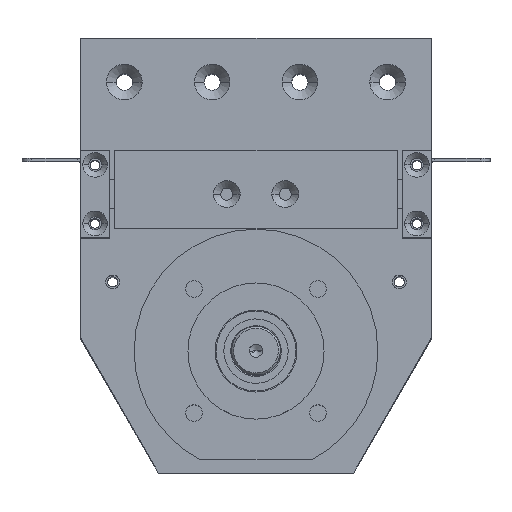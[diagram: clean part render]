
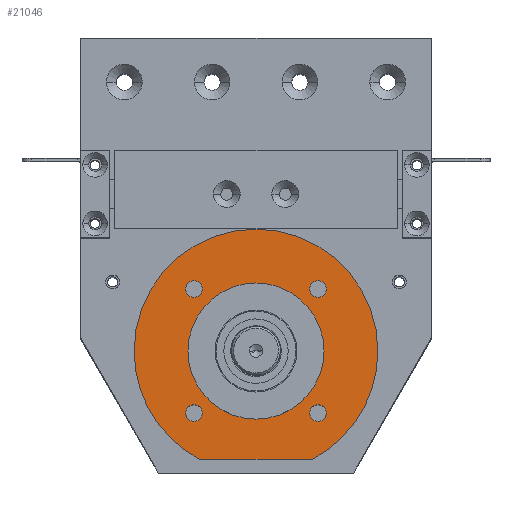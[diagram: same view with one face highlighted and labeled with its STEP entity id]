
A CAD part, top view. The second image highlights one B-rep face of the part: STEP entity #21046.
In plain terms, the highlighted planar face has unit normal (0, 0, 1) as drawn and (-1, 0, 0) by its records, which use the part's own axes.
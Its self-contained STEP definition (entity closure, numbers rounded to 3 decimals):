
#1391 = CIRCLE ( 'NONE', #21744, 4.25 ) ;
#1392 = CIRCLE ( 'NONE', #21743, 4.25 ) ;
#1399 = CIRCLE ( 'NONE', #21739, 62.5 ) ;
#1400 = CIRCLE ( 'NONE', #21738, 62.5 ) ;
#1406 = CIRCLE ( 'NONE', #21735, 34.9 ) ;
#1455 = CIRCLE ( 'NONE', #21725, 4.25 ) ;
#1467 = CIRCLE ( 'NONE', #21722, 4.25 ) ;
#1653 = CIRCLE ( 'NONE', #21665, 34.9 ) ;
#1654 = CIRCLE ( 'NONE', #21664, 4.25 ) ;
#1656 = CIRCLE ( 'NONE', #21662, 4.25 ) ;
#1657 = LINE ( 'NONE', #14469, #1661 ) ;
#1659 = CIRCLE ( 'NONE', #21661, 4.25 ) ;
#1661 = VECTOR ( 'NONE', #14470, 1000. ) ;
#1662 = CIRCLE ( 'NONE', #21660, 4.25 ) ;
#1668 = CIRCLE ( 'NONE', #21656, 62.5 ) ;
#2555 = FACE_BOUND ( 'NONE', #16467, .T. ) ;
#2565 = FACE_BOUND ( 'NONE', #16470, .T. ) ;
#2573 = FACE_BOUND ( 'NONE', #16472, .T. ) ;
#2575 = FACE_BOUND ( 'NONE', #16471, .T. ) ;
#2578 = FACE_BOUND ( 'NONE', #16468, .T. ) ;
#2580 = FACE_OUTER_BOUND ( 'NONE', #16466, .T. ) ;
#4502 = VERTEX_POINT ( 'NONE', #8877 ) ;
#4517 = VERTEX_POINT ( 'NONE', #8890 ) ;
#4541 = VERTEX_POINT ( 'NONE', #8902 ) ;
#4545 = VERTEX_POINT ( 'NONE', #8904 ) ;
#4607 = VERTEX_POINT ( 'NONE', #8936 ) ;
#4619 = VERTEX_POINT ( 'NONE', #8942 ) ;
#4650 = VERTEX_POINT ( 'NONE', #8956 ) ;
#4673 = VERTEX_POINT ( 'NONE', #8968 ) ;
#4701 = VERTEX_POINT ( 'NONE', #17154 ) ;
#4719 = VERTEX_POINT ( 'NONE', #17163 ) ;
#4751 = VERTEX_POINT ( 'NONE', #17179 ) ;
#8877 = CARTESIAN_POINT ( 'NONE',  ( 2., 31.82, -27.57 ) ) ;
#8890 = CARTESIAN_POINT ( 'NONE',  ( 2., 0., -34.9 ) ) ;
#8902 = CARTESIAN_POINT ( 'NONE',  ( 2., -55.5, 28.74 ) ) ;
#8904 = CARTESIAN_POINT ( 'NONE',  ( 2., 0., -62.5 ) ) ;
#8936 = CARTESIAN_POINT ( 'NONE',  ( 2., 0., 34.9 ) ) ;
#8942 = CARTESIAN_POINT ( 'NONE',  ( 2., -31.82, 27.57 ) ) ;
#8956 = CARTESIAN_POINT ( 'NONE',  ( 2., 0., 62.5 ) ) ;
#8968 = CARTESIAN_POINT ( 'NONE',  ( 2., 31.82, -36.07 ) ) ;
#11000 = VERTEX_POINT ( 'NONE', #17268 ) ;
#11002 = VERTEX_POINT ( 'NONE', #17270 ) ;
#11009 = VERTEX_POINT ( 'NONE', #17277 ) ;
#12355 = DIRECTION ( 'NONE',  ( 1., 0., 0. ) ) ;
#12357 = PLANE ( 'NONE',  #20696 ) ;
#12359 = CARTESIAN_POINT ( 'NONE',  ( 2., 62.5, 0. ) ) ;
#12361 = DIRECTION ( 'NONE',  ( 0., 0., -1. ) ) ;
#13546 = CARTESIAN_POINT ( 'NONE',  ( 2., 0., 0. ) ) ;
#13547 = DIRECTION ( 'NONE',  ( -1., 0., 0. ) ) ;
#13548 = DIRECTION ( 'NONE',  ( 0., 0., 1. ) ) ;
#14098 = CARTESIAN_POINT ( 'NONE',  ( 2., 31.82, -31.82 ) ) ;
#14099 = DIRECTION ( 'NONE',  ( 1., 0., 0. ) ) ;
#14100 = DIRECTION ( 'NONE',  ( 0., 0., -1. ) ) ;
#14102 = CARTESIAN_POINT ( 'NONE',  ( 2., 31.82, 31.82 ) ) ;
#14103 = DIRECTION ( 'NONE',  ( 1., 0., 0. ) ) ;
#14104 = DIRECTION ( 'NONE',  ( 0., 0., -1. ) ) ;
#14115 = CARTESIAN_POINT ( 'NONE',  ( 2., 0., 0. ) ) ;
#14116 = DIRECTION ( 'NONE',  ( -1., 0., 0. ) ) ;
#14117 = DIRECTION ( 'NONE',  ( 0., 0., 1. ) ) ;
#14119 = CARTESIAN_POINT ( 'NONE',  ( 2., 0., 0. ) ) ;
#14120 = DIRECTION ( 'NONE',  ( -1., 0., 0. ) ) ;
#14121 = DIRECTION ( 'NONE',  ( 0., 0., 1. ) ) ;
#14134 = CARTESIAN_POINT ( 'NONE',  ( 2., 0., 0. ) ) ;
#14135 = DIRECTION ( 'NONE',  ( -1., 0., 0. ) ) ;
#14136 = DIRECTION ( 'NONE',  ( 0., 0., 1. ) ) ;
#14200 = CARTESIAN_POINT ( 'NONE',  ( 2., -31.82, 31.82 ) ) ;
#14201 = DIRECTION ( 'NONE',  ( 1., 0., 0. ) ) ;
#14202 = DIRECTION ( 'NONE',  ( 0., 0., -1. ) ) ;
#14215 = CARTESIAN_POINT ( 'NONE',  ( 2., -31.82, -31.82 ) ) ;
#14216 = DIRECTION ( 'NONE',  ( 1., 0., 0. ) ) ;
#14217 = DIRECTION ( 'NONE',  ( 0., 0., -1. ) ) ;
#14466 = CARTESIAN_POINT ( 'NONE',  ( 2., 0., 0. ) ) ;
#14467 = DIRECTION ( 'NONE',  ( -1., 0., 0. ) ) ;
#14468 = DIRECTION ( 'NONE',  ( 0., 0., 1. ) ) ;
#14469 = CARTESIAN_POINT ( 'NONE',  ( 2., -55.5, 28.74 ) ) ;
#14470 = DIRECTION ( 'NONE',  ( 0., 0., -1. ) ) ;
#14471 = CARTESIAN_POINT ( 'NONE',  ( 2., 31.82, 31.82 ) ) ;
#14472 = DIRECTION ( 'NONE',  ( 1., 0., 0. ) ) ;
#14473 = DIRECTION ( 'NONE',  ( 0., 0., -1. ) ) ;
#14474 = CARTESIAN_POINT ( 'NONE',  ( 2., -31.82, -31.82 ) ) ;
#14475 = DIRECTION ( 'NONE',  ( 1., 0., 0. ) ) ;
#14476 = DIRECTION ( 'NONE',  ( 0., 0., -1. ) ) ;
#14479 = CARTESIAN_POINT ( 'NONE',  ( 2., 31.82, -31.82 ) ) ;
#14480 = DIRECTION ( 'NONE',  ( 1., 0., 0. ) ) ;
#14481 = DIRECTION ( 'NONE',  ( 0., 0., -1. ) ) ;
#14482 = CARTESIAN_POINT ( 'NONE',  ( 2., -31.82, 31.82 ) ) ;
#14483 = DIRECTION ( 'NONE',  ( 1., 0., 0. ) ) ;
#14484 = DIRECTION ( 'NONE',  ( 0., 0., -1. ) ) ;
#16466 = EDGE_LOOP ( 'NONE', ( #18264, #17620, #18833, #18796 ) ) ;
#16467 = EDGE_LOOP ( 'NONE', ( #17481, #17447 ) ) ;
#16468 = EDGE_LOOP ( 'NONE', ( #17724, #17560 ) ) ;
#16470 = EDGE_LOOP ( 'NONE', ( #18662, #18195 ) ) ;
#16471 = EDGE_LOOP ( 'NONE', ( #18690, #18727 ) ) ;
#16472 = EDGE_LOOP ( 'NONE', ( #18724, #18738 ) ) ;
#17154 = CARTESIAN_POINT ( 'NONE',  ( 2., -31.82, -36.07 ) ) ;
#17163 = CARTESIAN_POINT ( 'NONE',  ( 2., -55.5, -28.74 ) ) ;
#17179 = CARTESIAN_POINT ( 'NONE',  ( 2., 31.82, 36.07 ) ) ;
#17268 = CARTESIAN_POINT ( 'NONE',  ( 2., -31.82, -27.57 ) ) ;
#17270 = CARTESIAN_POINT ( 'NONE',  ( 2., -31.82, 36.07 ) ) ;
#17277 = CARTESIAN_POINT ( 'NONE',  ( 2., 31.82, 27.57 ) ) ;
#17447 = ORIENTED_EDGE ( 'NONE', *, *, #19552, .T. ) ;
#17481 = ORIENTED_EDGE ( 'NONE', *, *, #19703, .T. ) ;
#17560 = ORIENTED_EDGE ( 'NONE', *, *, #19593, .T. ) ;
#17620 = ORIENTED_EDGE ( 'NONE', *, *, #19558, .T. ) ;
#17724 = ORIENTED_EDGE ( 'NONE', *, *, #19704, .T. ) ;
#18195 = ORIENTED_EDGE ( 'NONE', *, *, #19600, .T. ) ;
#18264 = ORIENTED_EDGE ( 'NONE', *, *, #19559, .T. ) ;
#18662 = ORIENTED_EDGE ( 'NONE', *, *, #19701, .T. ) ;
#18690 = ORIENTED_EDGE ( 'NONE', *, *, #19565, .F. ) ;
#18724 = ORIENTED_EDGE ( 'NONE', *, *, #19700, .T. ) ;
#18727 = ORIENTED_EDGE ( 'NONE', *, *, #19699, .F. ) ;
#18738 = ORIENTED_EDGE ( 'NONE', *, *, #19553, .T. ) ;
#18796 = ORIENTED_EDGE ( 'NONE', *, *, #19702, .F. ) ;
#18833 = ORIENTED_EDGE ( 'NONE', *, *, #19708, .T. ) ;
#19552 = EDGE_CURVE ( 'NONE', #4502, #4673, #1391, .T. ) ;
#19553 = EDGE_CURVE ( 'NONE', #4751, #11009, #1392, .T. ) ;
#19558 = EDGE_CURVE ( 'NONE', #4650, #4545, #1399, .T. ) ;
#19559 = EDGE_CURVE ( 'NONE', #4541, #4650, #1400, .T. ) ;
#19565 = EDGE_CURVE ( 'NONE', #4607, #4517, #1406, .T. ) ;
#19593 = EDGE_CURVE ( 'NONE', #11002, #4619, #1455, .T. ) ;
#19600 = EDGE_CURVE ( 'NONE', #11000, #4701, #1467, .T. ) ;
#19699 = EDGE_CURVE ( 'NONE', #4517, #4607, #1653, .T. ) ;
#19700 = EDGE_CURVE ( 'NONE', #11009, #4751, #1654, .T. ) ;
#19701 = EDGE_CURVE ( 'NONE', #4701, #11000, #1656, .T. ) ;
#19702 = EDGE_CURVE ( 'NONE', #4541, #4719, #1657, .T. ) ;
#19703 = EDGE_CURVE ( 'NONE', #4673, #4502, #1659, .T. ) ;
#19704 = EDGE_CURVE ( 'NONE', #4619, #11002, #1662, .T. ) ;
#19708 = EDGE_CURVE ( 'NONE', #4545, #4719, #1668, .T. ) ;
#20696 = AXIS2_PLACEMENT_3D ( 'NONE', #12359, #12355, #12361 ) ;
#21046 = ADVANCED_FACE ( 'NONE', ( #2565, #2578, #2573, #2555, #2575, #2580 ), #12357, .F. ) ;
#21656 = AXIS2_PLACEMENT_3D ( 'NONE', #13546, #13547, #13548 ) ;
#21660 = AXIS2_PLACEMENT_3D ( 'NONE', #14482, #14483, #14484 ) ;
#21661 = AXIS2_PLACEMENT_3D ( 'NONE', #14479, #14480, #14481 ) ;
#21662 = AXIS2_PLACEMENT_3D ( 'NONE', #14474, #14475, #14476 ) ;
#21664 = AXIS2_PLACEMENT_3D ( 'NONE', #14471, #14472, #14473 ) ;
#21665 = AXIS2_PLACEMENT_3D ( 'NONE', #14466, #14467, #14468 ) ;
#21722 = AXIS2_PLACEMENT_3D ( 'NONE', #14215, #14216, #14217 ) ;
#21725 = AXIS2_PLACEMENT_3D ( 'NONE', #14200, #14201, #14202 ) ;
#21735 = AXIS2_PLACEMENT_3D ( 'NONE', #14134, #14135, #14136 ) ;
#21738 = AXIS2_PLACEMENT_3D ( 'NONE', #14119, #14120, #14121 ) ;
#21739 = AXIS2_PLACEMENT_3D ( 'NONE', #14115, #14116, #14117 ) ;
#21743 = AXIS2_PLACEMENT_3D ( 'NONE', #14102, #14103, #14104 ) ;
#21744 = AXIS2_PLACEMENT_3D ( 'NONE', #14098, #14099, #14100 ) ;
